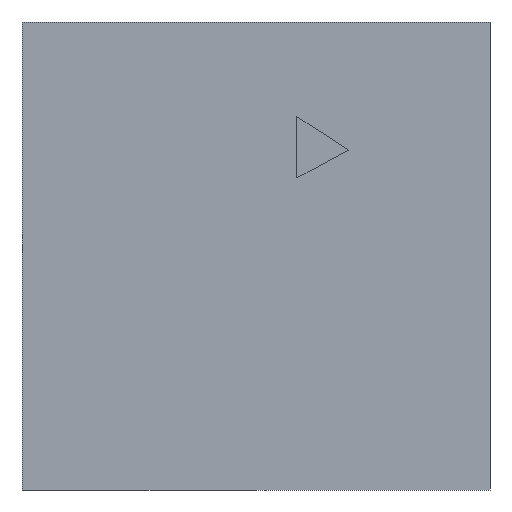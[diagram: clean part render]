
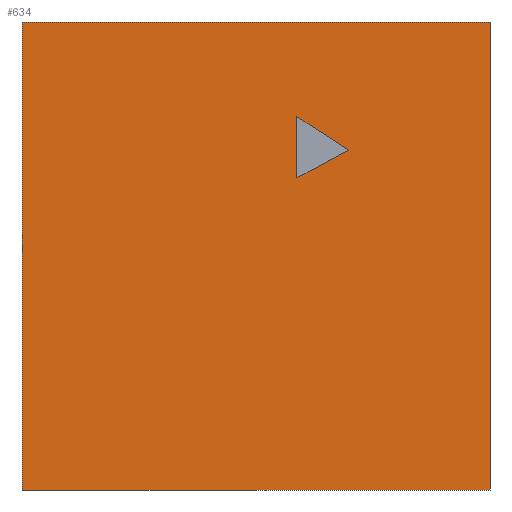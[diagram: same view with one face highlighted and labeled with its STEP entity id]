
A CAD part, left-side view. The second image highlights one B-rep face of the part: STEP entity #634.
In plain terms, the highlighted planar face has unit normal (-1, 0, 0).
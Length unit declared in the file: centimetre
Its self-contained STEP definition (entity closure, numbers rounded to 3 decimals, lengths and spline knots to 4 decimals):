
#5 = VERTEX_POINT ( 'NONE', #199 ) ;
#19 = CARTESIAN_POINT ( 'NONE',  ( 0., 1000., 1000. ) ) ;
#65 = CARTESIAN_POINT ( 'NONE',  ( 0., 302.4081, 726.4734 ) ) ;
#66 = PLANE ( 'NONE',  #115 ) ;
#69 = VECTOR ( 'NONE', #110, 100. ) ;
#71 = ORIENTED_EDGE ( 'NONE', *, *, #87, .F. ) ;
#73 = DIRECTION ( 'NONE',  ( 0., -1., 0. ) ) ;
#87 = EDGE_CURVE ( 'NONE', #614, #506, #883, .T. ) ;
#95 = LINE ( 'NONE', #239, #461 ) ;
#99 = ORIENTED_EDGE ( 'NONE', *, *, #416, .F. ) ;
#110 = DIRECTION ( 'NONE',  ( 0., -0.879, 0.477 ) ) ;
#113 = EDGE_CURVE ( 'NONE', #813, #5, #353, .T. ) ;
#115 = AXIS2_PLACEMENT_3D ( 'NONE', #253, #627, #536 ) ;
#128 = ORIENTED_EDGE ( 'NONE', *, *, #722, .F. ) ;
#165 = CARTESIAN_POINT ( 'NONE',  ( 0., 0., 1000. ) ) ;
#171 = ORIENTED_EDGE ( 'NONE', *, *, #850, .F. ) ;
#196 = CARTESIAN_POINT ( 'NONE',  ( 0., 1000., 1000. ) ) ;
#199 = CARTESIAN_POINT ( 'NONE',  ( 0., 1000., 0. ) ) ;
#211 = DIRECTION ( 'NONE',  ( 0., -1., 0. ) ) ;
#217 = ORIENTED_EDGE ( 'NONE', *, *, #648, .F. ) ;
#221 = ORIENTED_EDGE ( 'NONE', *, *, #113, .T. ) ;
#230 = VECTOR ( 'NONE', #211, 100. ) ;
#239 = CARTESIAN_POINT ( 'NONE',  ( 0., 302.4081, 726.4734 ) ) ;
#242 = VECTOR ( 'NONE', #842, 100. ) ;
#250 = FACE_BOUND ( 'NONE', #573, .T. ) ;
#253 = CARTESIAN_POINT ( 'NONE',  ( 0., 1000., 1000. ) ) ;
#263 = ORIENTED_EDGE ( 'NONE', *, *, #685, .T. ) ;
#323 = LINE ( 'NONE', #937, #230 ) ;
#347 = VECTOR ( 'NONE', #585, 100. ) ;
#353 = LINE ( 'NONE', #19, #804 ) ;
#386 = FACE_OUTER_BOUND ( 'NONE', #427, .T. ) ;
#393 = LINE ( 'NONE', #751, #69 ) ;
#416 = EDGE_CURVE ( 'NONE', #813, #614, #323, .T. ) ;
#427 = EDGE_LOOP ( 'NONE', ( #263, #71, #99, #221 ) ) ;
#435 = DIRECTION ( 'NONE',  ( 0., 0., -1. ) ) ;
#441 = VERTEX_POINT ( 'NONE', #769 ) ;
#461 = VECTOR ( 'NONE', #508, 100. ) ;
#491 = VERTEX_POINT ( 'NONE', #65 ) ;
#506 = VERTEX_POINT ( 'NONE', #705 ) ;
#508 = DIRECTION ( 'NONE',  ( 0., 0.839, 0.544 ) ) ;
#536 = DIRECTION ( 'NONE',  ( 0., 0., -1. ) ) ;
#573 = EDGE_LOOP ( 'NONE', ( #217, #171, #128 ) ) ;
#585 = DIRECTION ( 'NONE',  ( 0., 0., -1. ) ) ;
#614 = VERTEX_POINT ( 'NONE', #770 ) ;
#618 = CARTESIAN_POINT ( 'NONE',  ( 0., 412.6269, 797.8701 ) ) ;
#627 = DIRECTION ( 'NONE',  ( 1., 0., 0. ) ) ;
#634 = ADVANCED_FACE ( 'NONE', ( #250, #386 ), #66, .F. ) ;
#643 = VECTOR ( 'NONE', #73, 100. ) ;
#648 = EDGE_CURVE ( 'NONE', #783, #441, #778, .T. ) ;
#685 = EDGE_CURVE ( 'NONE', #5, #506, #764, .T. ) ;
#692 = CARTESIAN_POINT ( 'NONE',  ( 0., 1000., 0. ) ) ;
#705 = CARTESIAN_POINT ( 'NONE',  ( 0., 0., 0. ) ) ;
#722 = EDGE_CURVE ( 'NONE', #441, #491, #393, .T. ) ;
#751 = CARTESIAN_POINT ( 'NONE',  ( 0., 412.6269, 666.7195 ) ) ;
#764 = LINE ( 'NONE', #692, #643 ) ;
#769 = CARTESIAN_POINT ( 'NONE',  ( 0., 412.6269, 666.7195 ) ) ;
#770 = CARTESIAN_POINT ( 'NONE',  ( 0., 0., 1000. ) ) ;
#778 = LINE ( 'NONE', #618, #242 ) ;
#783 = VERTEX_POINT ( 'NONE', #863 ) ;
#804 = VECTOR ( 'NONE', #435, 100. ) ;
#813 = VERTEX_POINT ( 'NONE', #196 ) ;
#842 = DIRECTION ( 'NONE',  ( 0., 0., -1. ) ) ;
#850 = EDGE_CURVE ( 'NONE', #491, #783, #95, .T. ) ;
#863 = CARTESIAN_POINT ( 'NONE',  ( 0., 412.6269, 797.8701 ) ) ;
#883 = LINE ( 'NONE', #165, #347 ) ;
#937 = CARTESIAN_POINT ( 'NONE',  ( 0., 1000., 1000. ) ) ;
